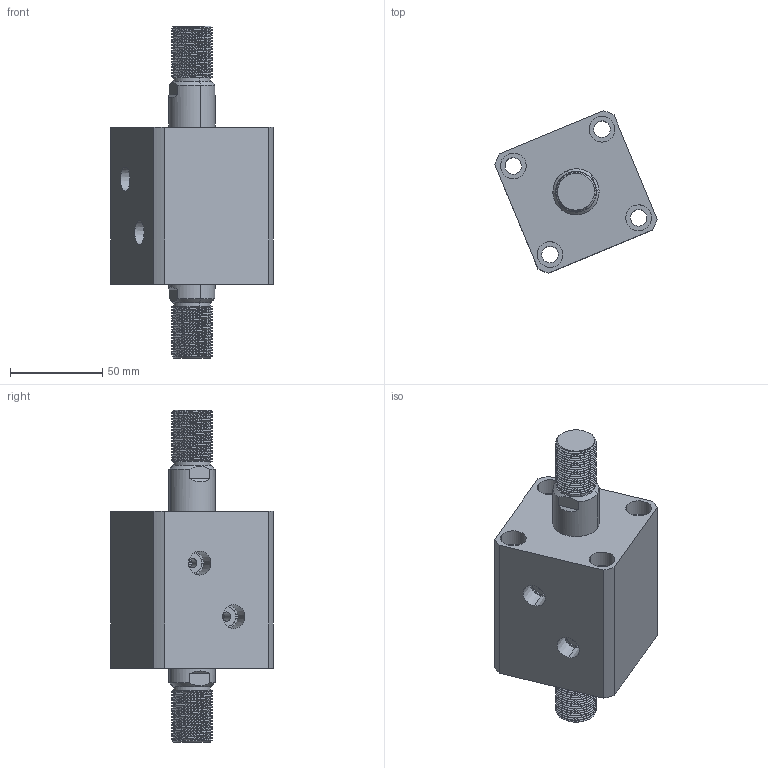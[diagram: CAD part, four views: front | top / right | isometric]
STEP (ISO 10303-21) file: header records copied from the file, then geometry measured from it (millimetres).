
FILE_DESCRIPTION (( 'STEP AP214' ), '1' );
FILE_NAME ('chtb-sw40x15w_asm.STEP', '2018-06-08T10:00:31', ( 'Windows' ), ( 'Microsoft' ), 'SwSTEP 2.0', 'SolidWorks 2015', '' );
FILE_SCHEMA (( 'AUTOMOTIVE_DESIGN' ));
Length unit declared in the file: millimetre
Products named in the file (4): CHTB-SW40X15NHSG; CHTB-SW40X15NBT; CHTB-SD40QG; chtb-sw40x15w_asm
Assembly tree (3 placements, depth 2):
  chtb-sw40x15w_asm
    CHTB-SD40QG
    CHTB-SW40X15NBT
    CHTB-SW40X15NHSG
Bounding box: 88.11 x 88.11 x 180 mm (x, y, z)
Volume: 406964.8 mm3; surface area: 82673.2 mm2
Topology: 3 solids, 3 shells, 254 faces, 680 edges, 452 vertices
Faces by surface type: cylinder 160, plane 46, bspline 18, cone 18, torus 12
Entity records: 17389 total; most frequent: CARTESIAN_POINT 11402, ORIENTED_EDGE 1348, DIRECTION 1094, EDGE_CURVE 674, VERTEX_POINT 452, AXIS2_PLACEMENT_3D 443, EDGE_LOOP 296, FACE_OUTER_BOUND 254
